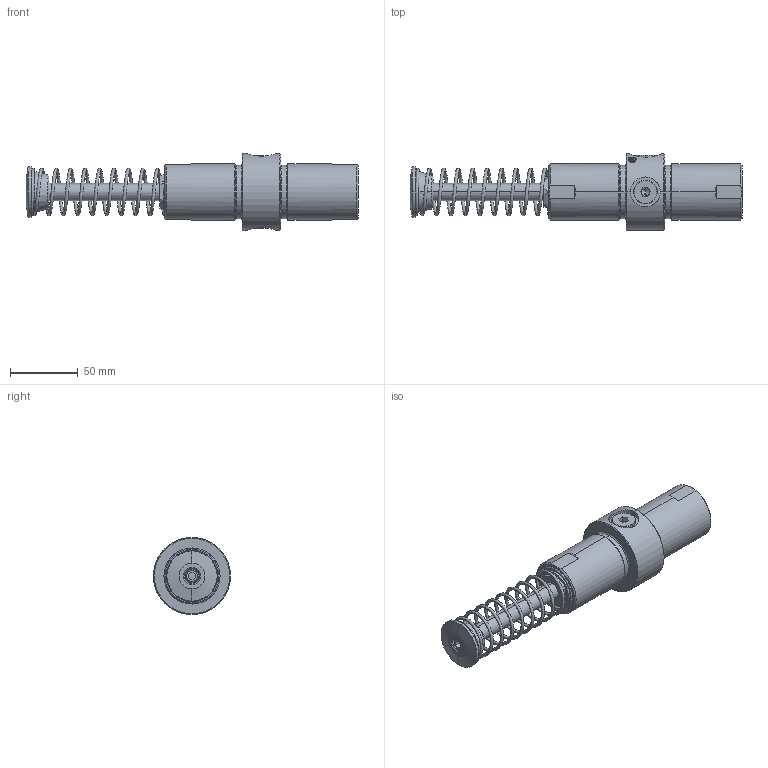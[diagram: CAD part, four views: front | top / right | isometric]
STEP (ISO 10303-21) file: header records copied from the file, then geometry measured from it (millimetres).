
FILE_DESCRIPTION (( 'STEP AP214' ), '1' );
FILE_NAME ('OEMXT 1.5M X 3.STEP', '2010-06-10T21:52:42', ( ' ' ), ( '' ), 'SwSTEP 2.0', 'SolidWorks 2006233', '' );
FILE_SCHEMA (( 'AUTOMOTIVE_DESIGN' ));
Length unit declared in the file: inch
Products named in the file (1): OEMXT 1.5M X 3
Bounding box: 245.85 x 57.02 x 57.02 mm (x, y, z)
Volume: 127785.1 mm3; surface area: 66848.4 mm2
Topology: 13 solids, 13 shells, 664 faces, 1581 edges, 977 vertices
Faces by surface type: plane 237, cylinder 136, cone 126, bspline 106, torus 59
Entity records: 39391 total; most frequent: CARTESIAN_POINT 15883, ORIENTED_EDGE 3126, DIRECTION 2850, EDGE_CURVE 1563, AXIS2_PLACEMENT_3D 1042, VERTEX_POINT 977, VECTOR 766, LINE 766
